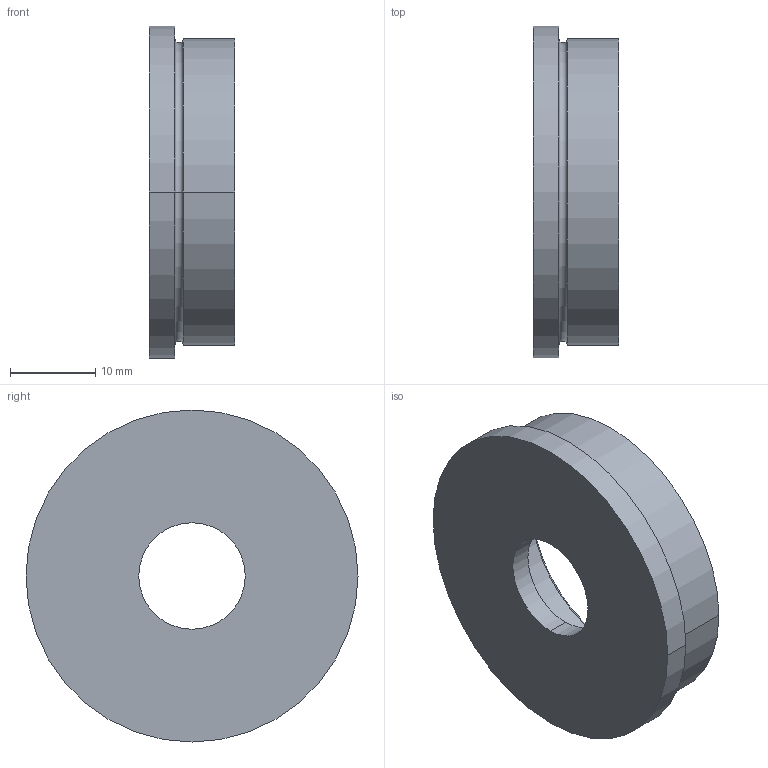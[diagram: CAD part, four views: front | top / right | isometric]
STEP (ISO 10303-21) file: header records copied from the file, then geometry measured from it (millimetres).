
FILE_DESCRIPTION(('FreeCAD Model'),'2;1');
FILE_NAME('Open CASCADE Shape Model','2026-07-02T19:39:57',(''),(''), 'Open CASCADE STEP processor 7.8','FreeCAD','Unknown');
FILE_SCHEMA(('AP242_MANAGED_MODEL_BASED_3D_ENGINEERING_MIM_LF. {1 0 10303 442 1 1 4 }'));
Length unit declared in the file: millimetre
Products named in the file (1): 75T0012
Bounding box: 10 x 39 x 39 mm (x, y, z)
Volume: 6635.3 mm3; surface area: 4076.9 mm2
Topology: 1 solids, 1 shells, 18 faces, 36 edges, 22 vertices
Faces by surface type: cylinder 8, plane 4, torus 4, cone 2
Entity records: 504 total; most frequent: DIRECTION 100, CARTESIAN_POINT 77, ORIENTED_EDGE 72, AXIS2_PLACEMENT_3D 45, EDGE_CURVE 36, CIRCLE 26, FACE_BOUND 22, EDGE_LOOP 22
